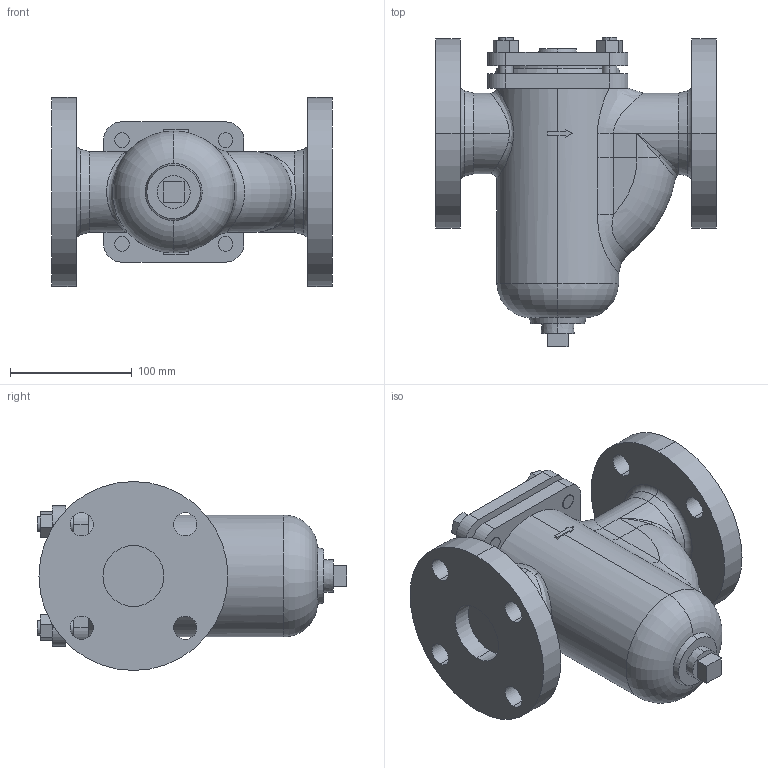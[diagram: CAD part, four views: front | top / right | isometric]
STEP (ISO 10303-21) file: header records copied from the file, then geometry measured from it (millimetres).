
FILE_DESCRIPTION (( 'STEP AP203' ), '1' );
FILE_NAME ('SU-20 50A.STEP', '2025-12-12T05:59:24', ( '' ), ( '' ), 'SwSTEP 2.0', 'SolidWorks 2024', '' );
FILE_SCHEMA (( 'CONFIG_CONTROL_DESIGN' ));
Length unit declared in the file: millimetre
Products named in the file (1): SU-20 50A
Bounding box: 230 x 254 x 155 mm (x, y, z)
Volume: 2954074.9 mm3; surface area: 221681.7 mm2
Topology: 1 solids, 1 shells, 182 faces, 448 edges, 289 vertices
Faces by surface type: plane 83, cylinder 71, cone 12, bspline 7, torus 7, sphere 2
Entity records: 7181 total; most frequent: CARTESIAN_POINT 2673, DIRECTION 953, ORIENTED_EDGE 892, EDGE_CURVE 446, AXIS2_PLACEMENT_3D 359, VERTEX_POINT 289, LINE 235, VECTOR 235
